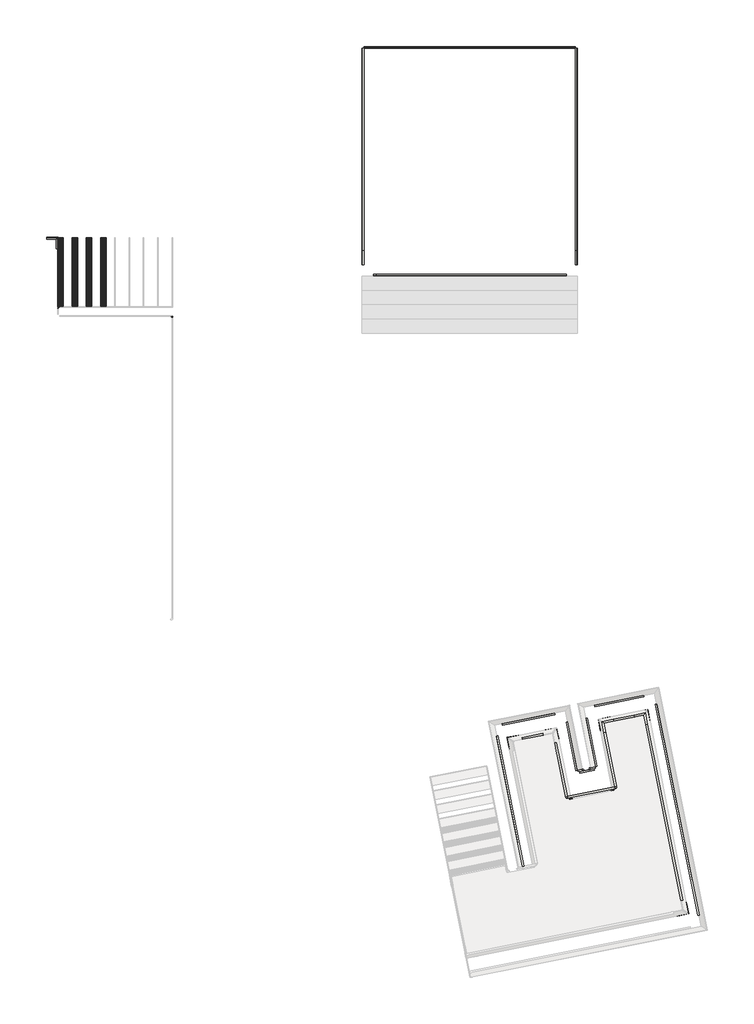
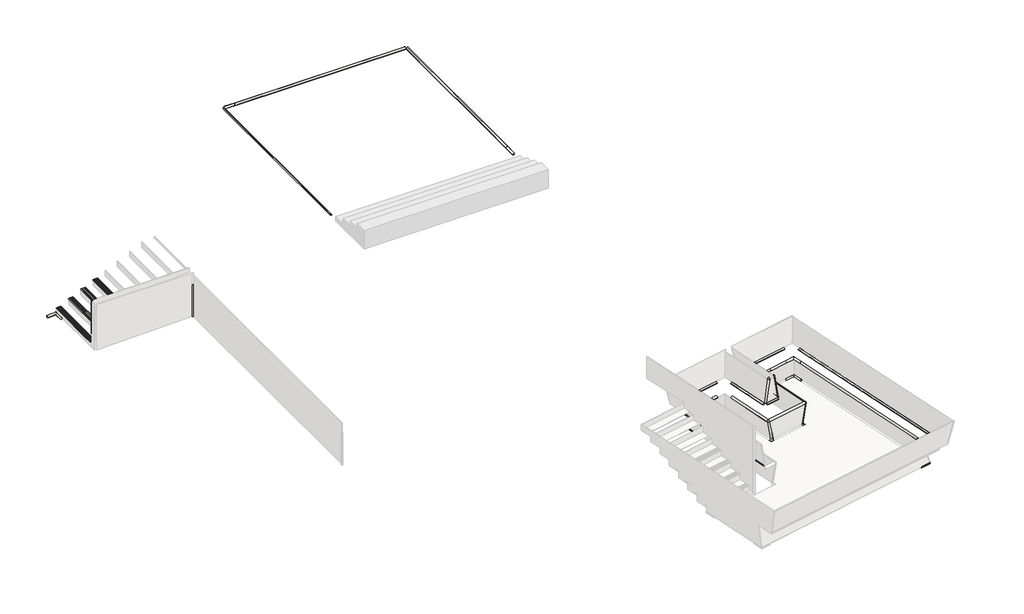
# One storey, part 2 of 2: 51 slabs, 6 proxies.
"""IFC4 building model written with IfcOpenShell, lengths in millimetres."""

from ifc_helpers import new_model, si_unit, origin, place, context, project, spatial, transform, mapped, element, save
from components import pieza_115_aqua_azul_anti_slip_2f38e3b8, pieza_116_aqua_azul_liso_e9a23e22, slab_17d3c6e7, slab_503e0185, pieza_112_aqua_azul_liso_81c370b3, pieza_112_aqua_azul_liso_8ca1fe8c, pieza_112_aqua_azul_liso_dcbc3e04, pieza_112_aqua_azul_liso_9e5541d7, pieza_112_aqua_azul_liso_c429846a, pieza_112_aqua_azul_liso_13d236a3, pieza_112_aqua_azul_liso_12b241ae, pieza_112_aqua_azul_liso_c8623fd9, pieza_112_aqua_azul_liso_118715ee, pieza_112_aqua_azul_liso_121d36f7, pieza_112_aqua_azul_liso_6f2f62ad, pieza_112_aqua_azul_liso_e030877e, pieza_112_aqua_azul_liso_a758a7d7, pieza_112_aqua_azul_liso_da3c05e6, pieza_112_aqua_azul_liso_c7a8b8d1, pieza_112_aqua_azul_liso_07d13668, pieza_112_aqua_azul_liso_38c27576, pieza_138_aqua_azul_liso_272dbb81, pieza_138_aqua_azul_liso_93942e5e, pieza_138_aqua_azul_liso_7f7dfdbc, pieza_138_aqua_azul_liso_8b39e214, pieza_138_aqua_azul_liso_103c38fc, pieza_138_aqua_azul_liso_495c5a5a, pieza_138_aqua_azul_liso_2fbbe676, pieza_138_aqua_azul_liso_81b033b2, pieza_138_aqua_azul_liso_665a89ac, pieza_138_aqua_azul_liso_3c2ccfcb, pieza_138_aqua_azul_liso_a0d6bde1, pieza_138_aqua_azul_liso_8f38ea3c, pieza_138_aqua_azul_liso_94dbf483

model = new_model("IFC4")

# Units and contexts
model_context = context("Model", 3, world=origin())
ifc_project = project(units=[si_unit("LENGTHUNIT", "METRE", prefix="MILLI")], contexts=[model_context])

# Site, building, storey
site = spatial("IfcSite", under=ifc_project)
building = spatial("IfcBuilding", under=site)
storey = spatial("IfcBuildingStorey", under=building, Name="4_NFondo1P1-P3 -1.2", Elevation=-1200.4)

# Proxies
placement = place(None, origin())
pieza_115_aqua_azul_anti_slip_shape = pieza_115_aqua_azul_anti_slip_2f38e3b8(model_context)
element("IfcBuildingElementProxy", 1, Name="ROSA GRES_115 : Pieza 115_Aqua_Azul_Anti-Slip", ObjectType="ROSA GRES_115 : Pieza 115_Aqua_Azul_Anti-Slip", at=placement, inside=storey, context=model_context, shape_type="MappedRepresentation", body=[
    mapped(pieza_115_aqua_azul_anti_slip_shape, transform((34117.270365, -38346.170762, -52.4), x_axis=(0.1961819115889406, -0.9805675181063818, 0.0), y_axis=(0.9805675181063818, 0.1961819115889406, 0.0), z_axis=(0.0, 0.0, 1.0))),
])
element("IfcBuildingElementProxy", 2, Name="ROSA GRES_115 : Pieza 115_Aqua_Azul_Anti-Slip", ObjectType="ROSA GRES_115 : Pieza 115_Aqua_Azul_Anti-Slip", at=placement, inside=storey, context=model_context, shape_type="MappedRepresentation", body=[
    mapped(pieza_115_aqua_azul_anti_slip_shape, transform((34234.9436559, -38322.6550476, -52.4), x_axis=(0.9805675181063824, 0.19618191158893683, 0.0), y_axis=(-0.19618191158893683, 0.9805675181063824, 0.0), z_axis=(0.0, 0.0, 1.0))),
])
element("IfcBuildingElementProxy", 3, Name="ROSA GRES_115 : Pieza 115_Aqua_Azul_Anti-Slip", ObjectType="ROSA GRES_115 : Pieza 115_Aqua_Azul_Anti-Slip", at=placement, inside=storey, context=model_context, shape_type="MappedRepresentation", body=[
    mapped(pieza_115_aqua_azul_anti_slip_shape, transform((34773.8090234, -38722.2520218, -690.4), x_axis=(0.9805675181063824, 0.19618191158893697, 0.0), y_axis=(-0.19618191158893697, 0.9805675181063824, 0.0), z_axis=(0.0, 0.0, 1.0))),
])
element("IfcBuildingElementProxy", 4, Name="ROSA GRES_115 : Pieza 115_Aqua_Azul_Anti-Slip", ObjectType="ROSA GRES_115 : Pieza 115_Aqua_Azul_Anti-Slip", at=placement, inside=storey, context=model_context, shape_type="MappedRepresentation", body=[
    mapped(pieza_115_aqua_azul_anti_slip_shape, transform((33773.6301407, -38922.3575643, -690.4), x_axis=(0.19618190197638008, -0.9805675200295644, 0.0), y_axis=(0.9805675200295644, 0.19618190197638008, 0.0), z_axis=(0.0, 0.0, 1.0))),
])
pieza_116_aqua_azul_liso_shape = pieza_116_aqua_azul_liso_e9a23e22(model_context)
element("IfcBuildingElementProxy", 5, Name="ROSA GRES_116 : Pieza 116_Aqua_Azul_Liso", ObjectType="ROSA GRES_116 : Pieza 116_Aqua_Azul_Liso", at=placement, inside=storey, context=model_context, shape_type="MappedRepresentation", body=[
    mapped(pieza_116_aqua_azul_liso_shape, transform((33865.9171772, -38903.92083, -1210.5), x_axis=(0.19618191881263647, -0.9805675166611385, 0.0), y_axis=(0.9805675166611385, 0.19618191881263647, 0.0), z_axis=(0.0, 0.0, 1.0))),
])
element("IfcBuildingElementProxy", 6, Name="ROSA GRES_116 : Pieza 116_Aqua_Azul_Liso", ObjectType="ROSA GRES_116 : Pieza 116_Aqua_Azul_Liso", at=placement, inside=storey, context=model_context, shape_type="MappedRepresentation", body=[
    mapped(pieza_116_aqua_azul_liso_shape, transform((34681.5906433, -38740.7292262, -1210.5), x_axis=(0.9805675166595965, 0.19618191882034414, 0.0), y_axis=(-0.19618191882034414, 0.9805675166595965, 0.0), z_axis=(0.0, 0.0, 1.0))),
])

# Slabs
slab_shape = slab_17d3c6e7(model_context)
element("IfcSlab", 7, ObjectType="ROSA GRES_003 : Pieza 003_Aqua_Marino_Anti-Slip", at=placement, inside=storey, context=model_context, shape_type="MappedRepresentation", body=[
    mapped(slab_shape, transform((23075.5844643, -28421.4665095, -1126.9281195), x_axis=(0.0, 1.0, 0.0), y_axis=(-1.0, 0.0, 0.0), z_axis=(0.0, 0.0, 1.0))),
])
element("IfcSlab", 8, ObjectType="ROSA GRES_003 : Pieza 003_Aqua_Marino_Anti-Slip", at=placement, inside=storey, context=model_context, shape_type="MappedRepresentation", body=[
    mapped(slab_shape, transform((23375.5844643, -28421.4665095, -987.0881195), x_axis=(0.0, 1.0, 0.0), y_axis=(-1.0, 0.0, 0.0), z_axis=(0.0, 0.0, 1.0))),
])
element("IfcSlab", 9, ObjectType="ROSA GRES_003 : Pieza 003_Aqua_Marino_Anti-Slip", at=placement, inside=storey, context=model_context, shape_type="MappedRepresentation", body=[
    mapped(slab_shape, transform((23675.5844643, -28421.4665095, -847.2481195), x_axis=(0.0, 1.0, 0.0), y_axis=(-1.0, 0.0, 0.0), z_axis=(0.0, 0.0, 1.0))),
])
element("IfcSlab", 10, ObjectType="ROSA GRES_003 : Pieza 003_Aqua_Marino_Anti-Slip", at=placement, inside=storey, context=model_context, shape_type="MappedRepresentation", body=[
    mapped(slab_shape, transform((23975.5844643, -28421.4665095, -707.4081195), x_axis=(0.0, 1.0, 0.0), y_axis=(-1.0, 0.0, 0.0), z_axis=(0.0, 0.0, 1.0))),
])
slab_2_shape = slab_503e0185(model_context)
element("IfcSlab", 11, ObjectType="ROSA GRES_003 : Pieza 003_Aqua_Marino_Anti-Slip", at=placement, inside=storey, context=model_context, shape_type="MappedRepresentation", body=[
    mapped(slab_2_shape, transform((23075.5844643, -28421.4665095, -1126.9281195), x_axis=(0.0, -1.0, 0.0), y_axis=(1.0, 0.0, 0.0), z_axis=(0.0, 0.0, 1.0))),
])
element("IfcSlab", 12, ObjectType="ROSA GRES_003 : Pieza 003_Aqua_Marino_Anti-Slip", at=placement, inside=storey, context=model_context, shape_type="MappedRepresentation", body=[
    mapped(slab_2_shape, transform((23375.5844643, -28421.4665095, -987.0881195), x_axis=(0.0, -1.0, 0.0), y_axis=(1.0, 0.0, 0.0), z_axis=(0.0, 0.0, 1.0))),
])
element("IfcSlab", 13, ObjectType="ROSA GRES_003 : Pieza 003_Aqua_Marino_Anti-Slip", at=placement, inside=storey, context=model_context, shape_type="MappedRepresentation", body=[
    mapped(slab_2_shape, transform((23675.5844643, -28421.4665095, -847.2481195), x_axis=(0.0, -1.0, 0.0), y_axis=(1.0, 0.0, 0.0), z_axis=(0.0, 0.0, 1.0))),
])
element("IfcSlab", 14, ObjectType="ROSA GRES_003 : Pieza 003_Aqua_Marino_Anti-Slip", at=placement, inside=storey, context=model_context, shape_type="MappedRepresentation", body=[
    mapped(slab_2_shape, transform((23975.5844643, -28421.4665095, -707.4081195), x_axis=(0.0, -1.0, 0.0), y_axis=(1.0, 0.0, 0.0), z_axis=(0.0, 0.0, 1.0))),
])
pieza_112_aqua_azul_liso_shape = pieza_112_aqua_azul_liso_81c370b3(model_context)
element("IfcSlab", 15, ObjectType="ROSA GRES_112 (corte) : Pieza 112_Aqua_Azul_Liso", at=placement, inside=storey, context=model_context, shape_type="MappedRepresentation", body=[
    mapped(pieza_112_aqua_azul_liso_shape, transform((23088.3279123, -27435.0196866, -1268.0583985), x_axis=(0.0, 1.0, 0.0), y_axis=(-0.9997016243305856, 0.0, -0.024426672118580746), z_axis=(-0.024426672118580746, 0.0, 0.9997016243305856))),
])
element("IfcSlab", 16, ObjectType="ROSA GRES_112 (corte) : Pieza 112_Aqua_Azul_Liso", at=placement, inside=storey, context=model_context, shape_type="MappedRepresentation", body=[
    mapped(pieza_112_aqua_azul_liso_shape, transform((36081.4271571, -41431.9689908, -1200.4), x_axis=(0.980567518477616, 0.19618190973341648, 0.0), y_axis=(-0.19618190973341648, 0.980567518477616, 0.0), z_axis=(0.0, 0.0, 1.0))),
])
element("IfcSlab", 17, ObjectType="ROSA GRES_112 (corte) : Pieza 112_Aqua_Azul_Liso", at=placement, inside=storey, context=model_context, shape_type="MappedRepresentation", body=[
    mapped(pieza_112_aqua_azul_liso_shape, transform((35509.6175698, -37332.7237281, -1210.4), x_axis=(-0.19618194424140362, 0.9805675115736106, 0.0), y_axis=(-0.9805675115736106, -0.19618194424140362, 0.0), z_axis=(0.0, 0.0, 1.0))),
])
element("IfcSlab", 18, ObjectType="ROSA GRES_112 (corte) : Pieza 112_Aqua_Azul_Liso", at=placement, inside=storey, context=model_context, shape_type="MappedRepresentation", body=[
    mapped(pieza_112_aqua_azul_liso_shape, transform((33597.5091294, -37715.2678985, -1210.5), x_axis=(-0.19618191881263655, 0.9805675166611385, 0.0), y_axis=(-0.9805675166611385, -0.19618191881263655, 0.0), z_axis=(0.0, 0.0, 1.0))),
])
element("IfcSlab", 19, ObjectType="ROSA GRES_112 (corte) : Pieza 112_Aqua_Azul_Liso", at=placement, inside=storey, context=model_context, shape_type="MappedRepresentation", body=[
    mapped(pieza_112_aqua_azul_liso_shape, transform((32751.0121005, -37636.3007827, -1210.5), x_axis=(-0.9805675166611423, -0.19618191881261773, 0.0), y_axis=(0.19618191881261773, -0.9805675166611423, 0.0), z_axis=(0.0, 0.0, 1.0))),
])
element("IfcSlab", 20, ObjectType="ROSA GRES_112 (corte) : Pieza 112_Aqua_Azul_Liso", at=placement, inside=storey, context=model_context, shape_type="MappedRepresentation", body=[
    mapped(pieza_112_aqua_azul_liso_shape, transform((34663.0197044, -37253.7658363, -1210.5), x_axis=(-0.9805675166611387, -0.19618191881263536, 0.0), y_axis=(0.19618191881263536, -0.9805675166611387, 0.0), z_axis=(0.0, 0.0, 1.0))),
])
pieza_112_aqua_azul_liso_2_shape = pieza_112_aqua_azul_liso_8ca1fe8c(model_context)
element("IfcSlab", 21, ObjectType="ROSA GRES_112 (corte) : Pieza 112_Aqua_Azul_Liso", at=placement, inside=storey, context=model_context, shape_type="MappedRepresentation", body=[
    mapped(pieza_112_aqua_azul_liso_2_shape, transform((22844.739991, -27191.5196866, -1274.0102167), x_axis=(0.9997016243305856, 0.0, 0.024426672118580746), y_axis=(0.0, 1.0, 0.0), z_axis=(-0.024426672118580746, 0.0, 0.9997016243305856))),
])
element("IfcSlab", 22, ObjectType="ROSA GRES_112 (corte) : Pieza 112_Aqua_Azul_Liso", at=placement, inside=storey, context=model_context, shape_type="MappedRepresentation", body=[
    mapped(pieza_112_aqua_azul_liso_2_shape, transform((36272.4255316, -41145.4329345, -1200.4), x_axis=(0.1961819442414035, -0.9805675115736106, 0.0), y_axis=(0.9805675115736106, 0.1961819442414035, 0.0), z_axis=(0.0, 0.0, 1.0))),
])
element("IfcSlab", 23, ObjectType="ROSA GRES_112 (corte) : Pieza 112_Aqua_Azul_Liso", at=placement, inside=storey, context=model_context, shape_type="MappedRepresentation", body=[
    mapped(pieza_112_aqua_azul_liso_2_shape, transform((35223.0810276, -37141.7145082, -1210.5), x_axis=(0.9805675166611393, 0.19618191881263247, 0.0), y_axis=(-0.19618191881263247, 0.9805675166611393, 0.0), z_axis=(0.0, 0.0, 1.0))),
])
element("IfcSlab", 24, ObjectType="ROSA GRES_112 (corte) : Pieza 112_Aqua_Azul_Liso", at=placement, inside=storey, context=model_context, shape_type="MappedRepresentation", body=[
    mapped(pieza_112_aqua_azul_liso_2_shape, transform((33310.9706419, -37524.2700055, -1210.5), x_axis=(0.9805675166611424, 0.19618191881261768, 0.0), y_axis=(-0.19618191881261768, 0.9805675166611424, 0.0), z_axis=(0.0, 0.0, 1.0))),
])
element("IfcSlab", 25, ObjectType="ROSA GRES_112 (corte) : Pieza 112_Aqua_Azul_Liso", at=placement, inside=storey, context=model_context, shape_type="MappedRepresentation", body=[
    mapped(pieza_112_aqua_azul_liso_2_shape, transform((32559.85165, -37922.8717931, -1210.5), x_axis=(-0.19618194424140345, 0.9805675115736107, 0.0), y_axis=(-0.9805675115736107, -0.19618194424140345, 0.0), z_axis=(0.0, 0.0, 1.0))),
])
element("IfcSlab", 26, ObjectType="ROSA GRES_112 (corte) : Pieza 112_Aqua_Azul_Liso", at=placement, inside=storey, context=model_context, shape_type="MappedRepresentation", body=[
    mapped(pieza_112_aqua_azul_liso_2_shape, transform((34472.0157497, -37540.3007806, -1210.4), x_axis=(-0.19618191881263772, 0.9805675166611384, 0.0), y_axis=(-0.9805675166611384, -0.19618191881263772, 0.0), z_axis=(0.0, 0.0, 1.0))),
])
pieza_112_aqua_azul_liso_3_shape = pieza_112_aqua_azul_liso_dcbc3e04(model_context)
element("IfcSlab", 27, ObjectType="ROSA GRES_112 : Pieza 112_Aqua_Azul_Liso", at=placement, inside=storey, context=model_context, shape_type="MappedRepresentation", body=[
    mapped(pieza_112_aqua_azul_liso_3_shape, transform((25487.4363125, -28841.5421973, -357.0134679), x_axis=(0.0, 0.0, -1.0), y_axis=(0.0, -1.0, 0.0), z_axis=(-1.0, 0.0, 0.0))),
])
pieza_112_aqua_azul_liso_4_shape = pieza_112_aqua_azul_liso_9e5541d7(model_context)
element("IfcSlab", 28, ObjectType="ROSA GRES_112 : Pieza 112_Aqua_Azul_Liso", at=placement, inside=storey, context=model_context, shape_type="MappedRepresentation", body=[
    mapped(pieza_112_aqua_azul_liso_4_shape, transform((29757.4097292, -23191.5196866, -610.4), x_axis=(1.0, 0.0, 0.0), y_axis=(0.0, 1.0, 0.0), z_axis=(0.0, 0.0, 1.0))),
])
pieza_112_aqua_azul_liso_5_shape = pieza_112_aqua_azul_liso_c429846a(model_context)
element("IfcSlab", 29, ObjectType="ROSA GRES_112 : Pieza 112_Aqua_Azul_Liso", at=placement, inside=storey, context=model_context, shape_type="MappedRepresentation", body=[
    mapped(pieza_112_aqua_azul_liso_5_shape, transform((33987.4097292, -27471.4665095, -610.4), x_axis=(0.0, 1.0, 0.0), y_axis=(-1.0, 0.0, 0.0), z_axis=(0.0, 0.0, 1.0))),
])
pieza_112_aqua_azul_liso_6_shape = pieza_112_aqua_azul_liso_13d236a3(model_context)
element("IfcSlab", 30, ObjectType="ROSA GRES_112 : Pieza 112_Aqua_Azul_Liso", at=placement, inside=storey, context=model_context, shape_type="MappedRepresentation", body=[
    mapped(pieza_112_aqua_azul_liso_6_shape, transform((33757.4629063, -28011.4665095, -610.4), x_axis=(-1.0, 0.0, 0.0), y_axis=(0.0, -1.0, 0.0), z_axis=(0.0, 0.0, 1.0))),
])
pieza_112_aqua_azul_liso_7_shape = pieza_112_aqua_azul_liso_12b241ae(model_context)
element("IfcSlab", 31, ObjectType="ROSA GRES_112 : Pieza 112_Aqua_Azul_Liso", at=placement, inside=storey, context=model_context, shape_type="MappedRepresentation", body=[
    mapped(pieza_112_aqua_azul_liso_7_shape, transform((29467.4629063, -27471.4665095, -610.4), x_axis=(0.0, 1.0, 0.0), y_axis=(-1.0, 0.0, 0.0), z_axis=(0.0, 0.0, 1.0))),
])
pieza_112_aqua_azul_liso_8_shape = pieza_112_aqua_azul_liso_c8623fd9(model_context)
element("IfcSlab", 32, ObjectType="ROSA GRES_112 : Pieza 112_Aqua_Azul_Liso", at=placement, inside=storey, context=model_context, shape_type="MappedRepresentation", body=[
    mapped(pieza_112_aqua_azul_liso_8_shape, transform((29757.4097292, -23191.5196866, -610.4), x_axis=(-1.0, 0.0, 0.0), y_axis=(0.0, -1.0, 0.0), z_axis=(0.0, 0.0, 1.0))),
])
pieza_112_aqua_azul_liso_9_shape = pieza_112_aqua_azul_liso_118715ee(model_context)
element("IfcSlab", 33, ObjectType="ROSA GRES_112 : Pieza 112_Aqua_Azul_Liso", at=placement, inside=storey, context=model_context, shape_type="MappedRepresentation", body=[
    mapped(pieza_112_aqua_azul_liso_9_shape, transform((29710.9629063, -28011.4665095, -610.4), x_axis=(1.0, 0.0, 0.0), y_axis=(0.0, 1.0, 0.0), z_axis=(0.0, 0.0, 1.0))),
])
pieza_112_aqua_azul_liso_10_shape = pieza_112_aqua_azul_liso_121d36f7(model_context)
element("IfcSlab", 34, ObjectType="ROSA GRES_112 : Pieza 112_Aqua_Azul_Liso", at=placement, inside=storey, context=model_context, shape_type="MappedRepresentation", body=[
    mapped(pieza_112_aqua_azul_liso_10_shape, transform((29467.4629063, -27471.4665095, -610.4), x_axis=(0.0, -1.0, 0.0), y_axis=(1.0, 0.0, 0.0), z_axis=(0.0, 0.0, 1.0))),
])
element("IfcSlab", 35, ObjectType="ROSA GRES_112 : Pieza 112_Aqua_Azul_Liso", at=placement, inside=storey, context=model_context, shape_type="MappedRepresentation", body=[
    mapped(pieza_112_aqua_azul_liso_10_shape, transform((33987.4097292, -27767.9665095, -610.4), x_axis=(0.0, 1.0, 0.0), y_axis=(-1.0, 0.0, 0.0), z_axis=(0.0, 0.0, 1.0))),
])
pieza_112_aqua_azul_liso_11_shape = pieza_112_aqua_azul_liso_6f2f62ad(model_context)
element("IfcSlab", 36, ObjectType="ROSA GRES_112 : Pieza 112_Aqua_Azul_Liso", at=placement, inside=storey, context=model_context, shape_type="MappedRepresentation", body=[
    mapped(pieza_112_aqua_azul_liso_11_shape, transform((36550.6080649, -41411.036292, -660.4), x_axis=(-0.19618194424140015, 0.9805675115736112, 0.0), y_axis=(-0.9805675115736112, -0.19618194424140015, 0.0), z_axis=(0.0, 0.0, 1.0))),
])
pieza_112_aqua_azul_liso_12_shape = pieza_112_aqua_azul_liso_e030877e(model_context)
element("IfcSlab", 37, ObjectType="ROSA GRES_112 : Pieza 112_Aqua_Azul_Liso", at=placement, inside=storey, context=model_context, shape_type="MappedRepresentation", body=[
    mapped(pieza_112_aqua_azul_liso_12_shape, transform((35377.9397627, -36791.1491643, -660.4), x_axis=(-0.980567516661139, -0.19618191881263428, 0.0), y_axis=(0.19618191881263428, -0.980567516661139, 0.0), z_axis=(0.0, 0.0, 1.0))),
])
pieza_112_aqua_azul_liso_13_shape = pieza_112_aqua_azul_liso_a758a7d7(model_context)
element("IfcSlab", 38, ObjectType="ROSA GRES_112 : Pieza 112_Aqua_Azul_Liso", at=placement, inside=storey, context=model_context, shape_type="MappedRepresentation", body=[
    mapped(pieza_112_aqua_azul_liso_13_shape, transform((34154.6702931, -37284.213994, -660.4), x_axis=(0.19618191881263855, -0.9805675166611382, 0.0), y_axis=(0.9805675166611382, 0.19618191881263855, 0.0), z_axis=(0.0, 0.0, 1.0))),
])
pieza_112_aqua_azul_liso_14_shape = pieza_112_aqua_azul_liso_da3c05e6(model_context)
element("IfcSlab", 39, ObjectType="ROSA GRES_112 : Pieza 112_Aqua_Azul_Liso", at=placement, inside=storey, context=model_context, shape_type="MappedRepresentation", body=[
    mapped(pieza_112_aqua_azul_liso_14_shape, transform((34333.9927415, -38333.4328474, -660.4), x_axis=(-0.9805872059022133, -0.19608348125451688, 0.0), y_axis=(0.19608348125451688, -0.9805872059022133, 0.0), z_axis=(0.0, 0.0, 1.0))),
])
pieza_112_aqua_azul_liso_15_shape = pieza_112_aqua_azul_liso_c7a8b8d1(model_context)
element("IfcSlab", 40, ObjectType="ROSA GRES_112 : Pieza 112_Aqua_Azul_Liso", at=placement, inside=storey, context=model_context, shape_type="MappedRepresentation", body=[
    mapped(pieza_112_aqua_azul_liso_15_shape, transform((33505.3024839, -37165.8073261, -660.4), x_axis=(-0.9805675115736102, -0.19618194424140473, 0.0), y_axis=(0.19618194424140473, -0.9805675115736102, 0.0), z_axis=(0.0, 0.0, 1.0))),
])
pieza_112_aqua_azul_liso_16_shape = pieza_112_aqua_azul_liso_07d13668(model_context)
element("IfcSlab", 41, ObjectType="ROSA GRES_112 : Pieza 112_Aqua_Azul_Liso", at=placement, inside=storey, context=model_context, shape_type="MappedRepresentation", body=[
    mapped(pieza_112_aqua_azul_liso_16_shape, transform((33994.6897401, -38370.6954402, -660.4), x_axis=(-0.19618191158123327, 0.9805675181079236, 0.0), y_axis=(-0.9805675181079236, -0.19618191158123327, 0.0), z_axis=(0.0, 0.0, 1.0))),
])
pieza_112_aqua_azul_liso_17_shape = pieza_112_aqua_azul_liso_38c27576(model_context)
element("IfcSlab", 42, ObjectType="ROSA GRES_112 : Pieza 112_Aqua_Azul_Liso", at=placement, inside=storey, context=model_context, shape_type="MappedRepresentation", body=[
    mapped(pieza_112_aqua_azul_liso_17_shape, transform((32281.9927481, -37658.8842176, -660.4), x_axis=(0.19618191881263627, -0.9805675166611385, 0.0), y_axis=(0.9805675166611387, 0.19618191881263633, 0.0), z_axis=(0.0, 0.0, 1.0000000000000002))),
])
pieza_138_aqua_azul_liso_shape = pieza_138_aqua_azul_liso_272dbb81(model_context)
element("IfcSlab", 43, ObjectType="ROSA GRES_138 : Pieza 138_Aqua_Azul_Liso", at=placement, inside=storey, context=model_context, shape_type="MappedRepresentation", body=[
    mapped(pieza_138_aqua_azul_liso_shape, transform((23117.4363125, -28691.493098, -876.9281195), x_axis=(0.0, 0.0, 1.0), y_axis=(1.0, 0.0, 0.0), z_axis=(0.0, 1.0, 0.0))),
])
pieza_138_aqua_azul_liso_2_shape = pieza_138_aqua_azul_liso_93942e5e(model_context)
element("IfcSlab", 44, ObjectType="ROSA GRES_138 (corte) : Pieza 138_Aqua_Azul_Liso", at=placement, inside=storey, context=model_context, shape_type="MappedRepresentation", body=[
    mapped(pieza_138_aqua_azul_liso_2_shape, transform((34738.3069788, -37304.0842689, -690.4), x_axis=(-0.980567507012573, -0.19618196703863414, 0.0), y_axis=(0.19618196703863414, -0.980567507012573, 0.0), z_axis=(0.0, 0.0, 1.0))),
])
element("IfcSlab", 45, ObjectType="ROSA GRES_138 (corte) : Pieza 138_Aqua_Azul_Liso", at=placement, inside=storey, context=model_context, shape_type="MappedRepresentation", body=[
    mapped(pieza_138_aqua_azul_liso_2_shape, transform((35459.3414265, -37408.2212487, -690.4), x_axis=(-0.19618193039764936, 0.9805675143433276, 0.0), y_axis=(-0.9805675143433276, -0.19618193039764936, 0.0), z_axis=(0.0, 0.0, 1.0))),
])
pieza_138_aqua_azul_liso_3_shape = pieza_138_aqua_azul_liso_7f7dfdbc(model_context)
element("IfcSlab", 46, ObjectType="ROSA GRES_138 (corte) : Pieza 138_Aqua_Azul_Liso", at=placement, inside=storey, context=model_context, shape_type="MappedRepresentation", body=[
    mapped(pieza_138_aqua_azul_liso_3_shape, transform((34547.3824574, -37590.5142143, -690.4), x_axis=(-0.19618190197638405, 0.9805675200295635, 0.0), y_axis=(-0.9805675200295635, -0.19618190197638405, 0.0), z_axis=(0.0, 0.0, 1.0))),
])
element("IfcSlab", 47, ObjectType="ROSA GRES_138 (corte) : Pieza 138_Aqua_Azul_Liso", at=placement, inside=storey, context=model_context, shape_type="MappedRepresentation", body=[
    mapped(pieza_138_aqua_azul_liso_3_shape, transform((35172.7054174, -37217.1742566, -690.4), x_axis=(0.9805675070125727, 0.19618196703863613, 0.0), y_axis=(-0.19618196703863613, 0.9805675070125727, 0.0), z_axis=(0.0, 0.0, 1.0))),
])
pieza_138_aqua_azul_liso_4_shape = pieza_138_aqua_azul_liso_8b39e214(model_context)
element("IfcSlab", 48, ObjectType="ROSA GRES_138 : Pieza 138_Aqua_Azul_Liso", at=placement, inside=storey, context=model_context, shape_type="MappedRepresentation", body=[
    mapped(pieza_138_aqua_azul_liso_4_shape, transform((34738.3083314, -37304.0840045, -690.4), x_axis=(0.9805675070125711, 0.1961819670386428, 0.0), y_axis=(-0.1961819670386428, 0.9805675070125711, 0.0), z_axis=(0.0, 0.0, 1.0))),
])
pieza_138_aqua_azul_liso_5_shape = pieza_138_aqua_azul_liso_103c38fc(model_context)
element("IfcSlab", 49, ObjectType="ROSA GRES_138 : Pieza 138_Aqua_Azul_Liso", at=placement, inside=storey, context=model_context, shape_type="MappedRepresentation", body=[
    mapped(pieza_138_aqua_azul_liso_5_shape, transform((34235.2322454, -38322.570201, -57.5129504), x_axis=(0.1617288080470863, 0.03235705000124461, -0.9863046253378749), y_axis=(-0.1961819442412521, 0.980567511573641, 0.0), z_axis=(0.967138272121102, 0.19349515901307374, 0.16493388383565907))),
])
pieza_138_aqua_azul_liso_6_shape = pieza_138_aqua_azul_liso_495c5a5a(model_context)
element("IfcSlab", 50, ObjectType="ROSA GRES_138 : Pieza 138_Aqua_Azul_Liso", at=placement, inside=storey, context=model_context, shape_type="MappedRepresentation", body=[
    mapped(pieza_138_aqua_azul_liso_6_shape, transform((34773.8089644, -38722.2520336, -690.4), x_axis=(-0.196181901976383, 0.9805675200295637, 0.0), y_axis=(-0.9805675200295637, -0.196181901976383, 0.0), z_axis=(0.0, 0.0, 1.0))),
])
pieza_138_aqua_azul_liso_7_shape = pieza_138_aqua_azul_liso_2fbbe676(model_context)
element("IfcSlab", 51, ObjectType="ROSA GRES_138 : Pieza 138_Aqua_Azul_Liso", at=placement, inside=storey, context=model_context, shape_type="MappedRepresentation", body=[
    mapped(pieza_138_aqua_azul_liso_7_shape, transform((33773.6301407, -38922.3575643, -690.4), x_axis=(0.9805675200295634, 0.19618190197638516, 0.0), y_axis=(-0.19618190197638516, 0.9805675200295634, 0.0), z_axis=(0.0, 0.0, 1.0))),
])
pieza_138_aqua_azul_liso_8_shape = pieza_138_aqua_azul_liso_81b033b2(model_context)
element("IfcSlab", 52, ObjectType="ROSA GRES_138 : Pieza 138_Aqua_Azul_Liso", at=placement, inside=storey, context=model_context, shape_type="MappedRepresentation", body=[
    mapped(pieza_138_aqua_azul_liso_8_shape, transform((34023.5739092, -38364.9165898, -627.1300951), x_axis=(0.1617288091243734, 0.03235704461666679, 0.9863046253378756), y_axis=(-0.19618191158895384, 0.9805675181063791, 0.0), z_axis=(-0.9671382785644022, -0.1934951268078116, 0.1649338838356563))),
])
pieza_138_aqua_azul_liso_9_shape = pieza_138_aqua_azul_liso_665a89ac(model_context)
element("IfcSlab", 53, ObjectType="ROSA GRES_138 : Pieza 138_Aqua_Azul_Liso", at=placement, inside=storey, context=model_context, shape_type="MappedRepresentation", body=[
    mapped(pieza_138_aqua_azul_liso_9_shape, transform((35459.3414703, -37408.2212399, -690.4), x_axis=(0.19618193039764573, -0.9805675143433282, 0.0), y_axis=(0.9805675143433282, 0.19618193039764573, 0.0), z_axis=(0.0, 0.0, 1.0))),
])
pieza_138_aqua_azul_liso_10_shape = pieza_138_aqua_azul_liso_3c2ccfcb(model_context)
element("IfcSlab", 54, ObjectType="ROSA GRES_138 : Pieza 138_Aqua_Azul_Liso", at=placement, inside=storey, context=model_context, shape_type="MappedRepresentation", body=[
    mapped(pieza_138_aqua_azul_liso_10_shape, transform((32826.2981416, -37686.6194939, -690.4), x_axis=(0.9805675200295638, 0.19618190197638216, 0.0), y_axis=(-0.19618190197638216, 0.9805675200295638, 0.0), z_axis=(0.0, 0.0, 1.0))),
])
pieza_138_aqua_azul_liso_11_shape = pieza_138_aqua_azul_liso_a0d6bde1(model_context)
element("IfcSlab", 55, ObjectType="ROSA GRES_138 : Pieza 138_Aqua_Azul_Liso", at=placement, inside=storey, context=model_context, shape_type="MappedRepresentation", body=[
    mapped(pieza_138_aqua_azul_liso_11_shape, transform((33547.2202496, -37790.7033878, -690.4), x_axis=(0.1961819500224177, -0.9805675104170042, 0.0), y_axis=(0.9805675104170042, 0.1961819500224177, 0.0), z_axis=(0.0, 0.0, 1.0))),
])
pieza_138_aqua_azul_liso_12_shape = pieza_138_aqua_azul_liso_8f38ea3c(model_context)
element("IfcSlab", 56, ObjectType="ROSA GRES_138 : Pieza 138_Aqua_Azul_Liso", at=placement, inside=storey, context=model_context, shape_type="MappedRepresentation", body=[
    mapped(pieza_138_aqua_azul_liso_12_shape, transform((34680.7714474, -38740.8660178, -1170.4100165), x_axis=(0.18867536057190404, 0.037748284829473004, 0.981313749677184), y_axis=(0.1961819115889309, -0.9805675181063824, 4.999551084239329e-08), z_axis=(0.962244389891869, 0.19251599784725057, -0.1924144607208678))),
])
pieza_138_aqua_azul_liso_13_shape = pieza_138_aqua_azul_liso_94dbf483(model_context)
element("IfcSlab", 57, ObjectType="ROSA GRES_138 : Pieza 138_Aqua_Azul_Liso", at=placement, inside=storey, context=model_context, shape_type="MappedRepresentation", body=[
    mapped(pieza_138_aqua_azul_liso_13_shape, transform((33774.3164955, -38924.6943667, -687.6099903), x_axis=(0.18867536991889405, 0.037748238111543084, -0.9813137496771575), y_axis=(0.19618191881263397, -0.9805675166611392, 0.0), z_axis=(-0.9622443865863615, -0.19251601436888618, -0.19241446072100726))),
])

save(model, "model.ifc")
